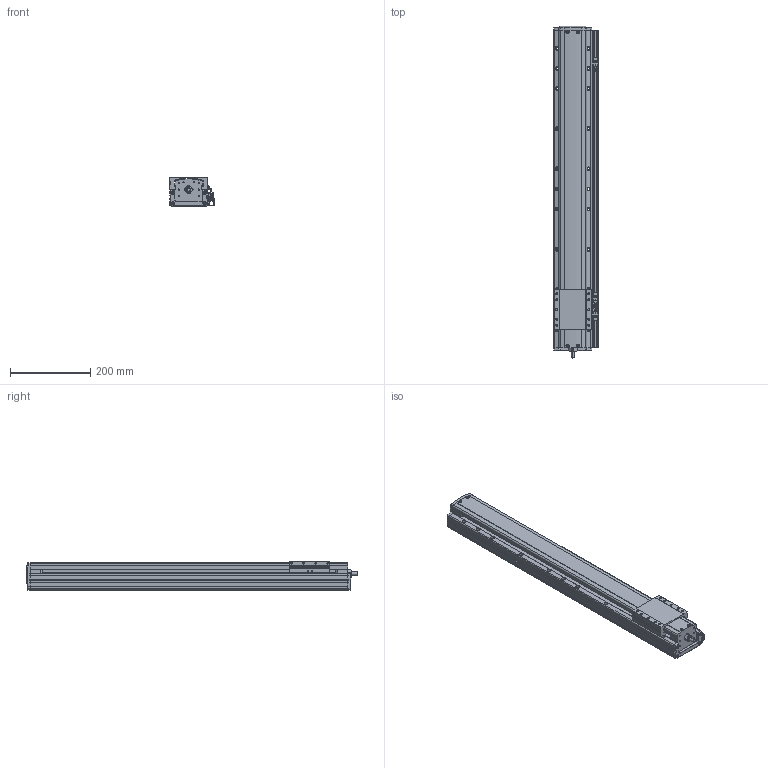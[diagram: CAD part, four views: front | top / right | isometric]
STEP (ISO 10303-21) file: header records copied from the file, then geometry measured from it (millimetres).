
FILE_DESCRIPTION(('STEP AP214'),'1');
FILE_NAME('Z:/Web/3D/PSA95/STP/PSA95-600 (3D)/PSA95ㅁㅁ-600+3SR.stp','2014-07-03T00:36:07',(' '),(' '),'Spatial InterOp 3D',' ',' ');
FILE_SCHEMA(('automotive_design'));
Length unit declared in the file: millimetre
Products named in the file (36): BASE; RRCV; 스크루 : Round - M4.0 x 10.0; 너트 : Square - M10.0 x 220.7419; RR1500; FRCV-090; 스크루 : Round - M4.0 x 6.0; SLBL-PA90; EE-SX674; SBK-SX674-352; 스크루 : Round - M3.0 x 6.0; M3.0 x 6.0; SRL-16x17-380L; SGD-PA95; 스크루 : Round - M3.0 x 8.0
Bounding box: 111 x 826 x 74 mm (x, y, z)
Volume: 4408487.3 mm3; surface area: 533360.2 mm2
Topology: 36 solids, 36 shells, 2320 faces, 6218 edges, 3998 vertices
Faces by surface type: plane 1364, cylinder 663, cone 205, sphere 50, bspline 24, torus 14
Entity records: 93425 total; most frequent: CARTESIAN_POINT 15643, DIRECTION 12286, ORIENTED_EDGE 12188, EDGE_CURVE 6094, LINE 4216, VECTOR 4216, AXIS2_PLACEMENT_3D 4035, VERTEX_POINT 3998
